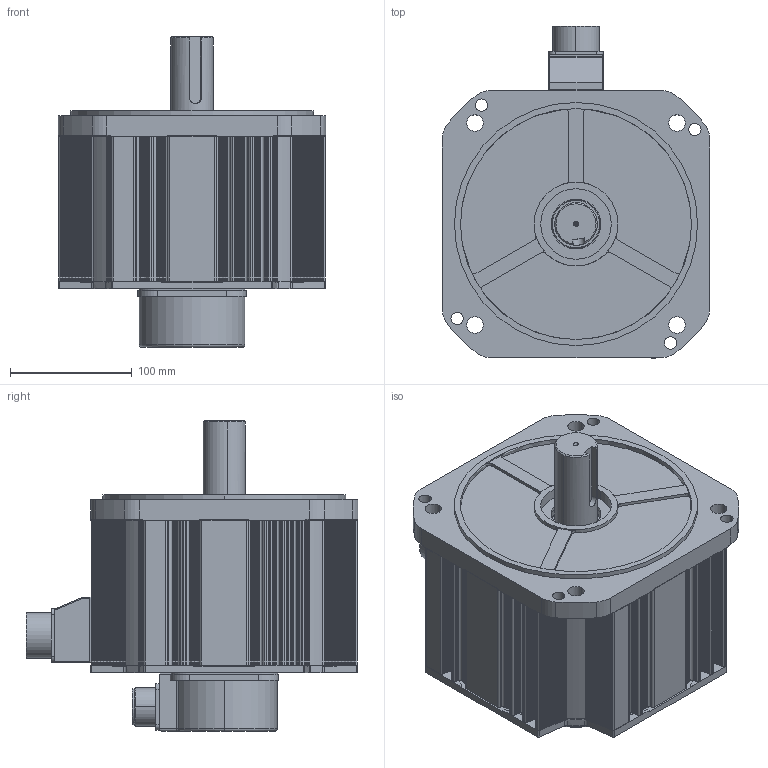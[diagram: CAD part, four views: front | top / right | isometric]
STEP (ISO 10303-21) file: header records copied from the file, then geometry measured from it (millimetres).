
FILE_DESCRIPTION (( 'STEP AP203' ), '1' );
FILE_NAME ('KANF-40G¡à9B2.STEP', '2026-09-12T00:52:47', ( '' ), ( '' ), 'SwSTEP 2.0', 'SolidWorks 2023', '' );
FILE_SCHEMA (( 'CONFIG_CONTROL_DESIGN' ));
Length unit declared in the file: millimetre
Products named in the file (11): MS3102A 20-29P; □220 FLANGE; 10050908 CONNECTOR BOX_MS22 or MS24; □220 BRACKET_BR; 10050907 RUBBER SEAL_MS22 or MS24; □220-122.0mm(4.0kW,BR); 10050532 GASKET_미돌출형; KANF-40G□9B2; 1005053102 ENCODER COVER; Ø35-KEY10X50; MS3102A 24-11P_표준
Assembly tree (10 placements, depth 2):
  KANF-40G□9B2
    □220 FLANGE
    □220 BRACKET_BR
    10050532 GASKET_미돌출형
    1005053102 ENCODER COVER
    MS3102A 20-29P
    10050907 RUBBER SEAL_MS22 or MS24
    10050908 CONNECTOR BOX_MS22 or MS24
    MS3102A 24-11P_표준
    Ø35-KEY10X50
    □220-122.0mm(4.0kW,BR)
Bounding box: 220 x 273.12 x 255.5 mm (x, y, z)
Volume: 1745336 mm3; surface area: 591758.4 mm2
Topology: 10 solids, 10 shells, 2020 faces, 5772 edges, 3812 vertices
Faces by surface type: plane 1184, cylinder 732, cone 54, bspline 35, torus 13, sphere 2
Entity records: 68895 total; most frequent: CARTESIAN_POINT 13760, ORIENTED_EDGE 11492, DIRECTION 11204, EDGE_CURVE 5746, VECTOR 3982, LINE 3982, VERTEX_POINT 3812, AXIS2_PLACEMENT_3D 3611
